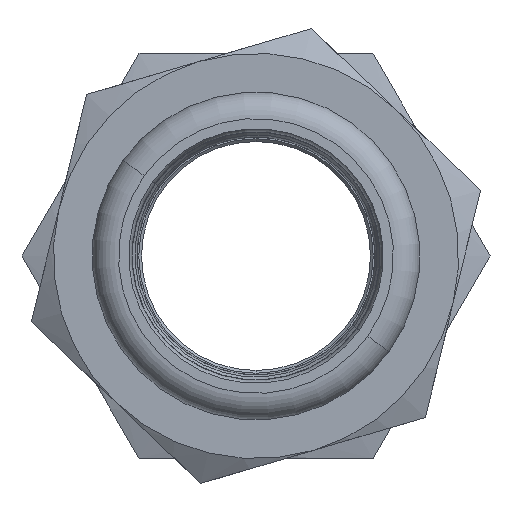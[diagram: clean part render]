
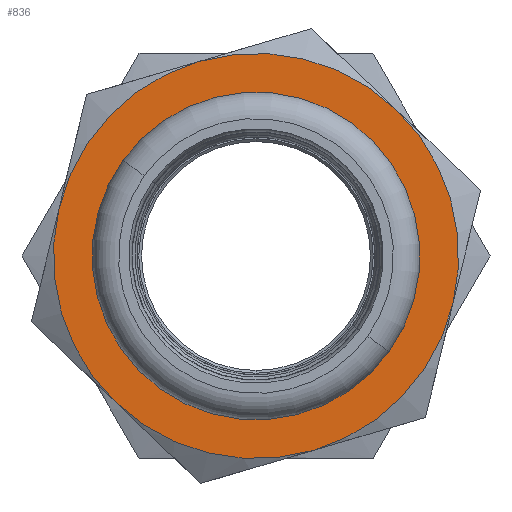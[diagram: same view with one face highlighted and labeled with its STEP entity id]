
A CAD part, left-side view. The second image highlights one B-rep face of the part: STEP entity #836.
In plain terms, the highlighted planar face has unit normal (-1, 0, 0) as drawn and (0, 1, 0) by its records, which use the part's own axes.
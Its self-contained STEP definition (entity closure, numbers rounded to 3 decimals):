
#92 = DIRECTION ( 'NONE',  ( 0., 1., 0. ) ) ;
#218 = CIRCLE ( 'NONE', #2767, 23. ) ;
#374 = DIRECTION ( 'NONE',  ( 0., 1., 0. ) ) ;
#379 = AXIS2_PLACEMENT_3D ( 'NONE', #1377, #769, #2599 ) ;
#420 = CARTESIAN_POINT ( 'NONE',  ( 0., 19., 16. ) ) ;
#431 = DIRECTION ( 'NONE',  ( 0., 1., 0. ) ) ;
#448 = CARTESIAN_POINT ( 'NONE',  ( 0., 19., -16. ) ) ;
#450 = DIRECTION ( 'NONE',  ( 0., 0., 1. ) ) ;
#580 = CARTESIAN_POINT ( 'NONE',  ( 0., 19., 0. ) ) ;
#663 = DIRECTION ( 'NONE',  ( 0., 0., 1. ) ) ;
#676 = CARTESIAN_POINT ( 'NONE',  ( 0., 19., 0. ) ) ;
#690 = CARTESIAN_POINT ( 'NONE',  ( 0., 19., 0. ) ) ;
#700 = CARTESIAN_POINT ( 'NONE',  ( 0., 19., 0. ) ) ;
#737 = ORIENTED_EDGE ( 'NONE', *, *, #1998, .F. ) ;
#769 = DIRECTION ( 'NONE',  ( 0., 1., 0. ) ) ;
#836 = ADVANCED_FACE ( 'NONE', ( #3844, #2454 ), #3001, .T. ) ;
#948 = AXIS2_PLACEMENT_3D ( 'NONE', #3268, #431, #2677 ) ;
#1018 = DIRECTION ( 'NONE',  ( 0., 0., 1. ) ) ;
#1045 = VERTEX_POINT ( 'NONE', #3382 ) ;
#1064 = VERTEX_POINT ( 'NONE', #2385 ) ;
#1093 = CARTESIAN_POINT ( 'NONE',  ( 0., 19., 0. ) ) ;
#1342 = CIRCLE ( 'NONE', #379, 23. ) ;
#1377 = CARTESIAN_POINT ( 'NONE',  ( 0., 19., 0. ) ) ;
#1415 = AXIS2_PLACEMENT_3D ( 'NONE', #1985, #92, #2310 ) ;
#1662 = CARTESIAN_POINT ( 'NONE',  ( 19.919, 19., -11.5 ) ) ;
#1680 = EDGE_LOOP ( 'NONE', ( #1870, #2825, #2758, #3028, #1950, #3735 ) ) ;
#1702 = CARTESIAN_POINT ( 'NONE',  ( 0., 19., 23. ) ) ;
#1776 = CARTESIAN_POINT ( 'NONE',  ( -19.919, 19., -11.5 ) ) ;
#1870 = ORIENTED_EDGE ( 'NONE', *, *, #2725, .T. ) ;
#1906 = DIRECTION ( 'NONE',  ( 0., 1., 0. ) ) ;
#1911 = CIRCLE ( 'NONE', #2939, 23. ) ;
#1936 = VERTEX_POINT ( 'NONE', #1702 ) ;
#1950 = ORIENTED_EDGE ( 'NONE', *, *, #3333, .T. ) ;
#1983 = EDGE_CURVE ( 'NONE', #2165, #1064, #1342, .T. ) ;
#1985 = CARTESIAN_POINT ( 'NONE',  ( 0., 19., 0. ) ) ;
#1998 = EDGE_CURVE ( 'NONE', #3351, #2342, #2940, .T. ) ;
#2073 = AXIS2_PLACEMENT_3D ( 'NONE', #700, #3250, #3220 ) ;
#2121 = EDGE_LOOP ( 'NONE', ( #737, #3450 ) ) ;
#2165 = VERTEX_POINT ( 'NONE', #1776 ) ;
#2196 = CIRCLE ( 'NONE', #1415, 23. ) ;
#2210 = CIRCLE ( 'NONE', #3234, 23. ) ;
#2234 = VERTEX_POINT ( 'NONE', #2701 ) ;
#2310 = DIRECTION ( 'NONE',  ( 0., 0., 1. ) ) ;
#2342 = VERTEX_POINT ( 'NONE', #448 ) ;
#2385 = CARTESIAN_POINT ( 'NONE',  ( -19.919, 19., 11.5 ) ) ;
#2454 = FACE_OUTER_BOUND ( 'NONE', #1680, .T. ) ;
#2491 = DIRECTION ( 'NONE',  ( 0., 0., 1. ) ) ;
#2492 = EDGE_CURVE ( 'NONE', #1045, #2702, #218, .T. ) ;
#2526 = EDGE_CURVE ( 'NONE', #2342, #3351, #3803, .T. ) ;
#2599 = DIRECTION ( 'NONE',  ( 0., 0., 1. ) ) ;
#2652 = DIRECTION ( 'NONE',  ( 0., 1., 0. ) ) ;
#2677 = DIRECTION ( 'NONE',  ( 0., 0., 1. ) ) ;
#2701 = CARTESIAN_POINT ( 'NONE',  ( 0., 19., -23. ) ) ;
#2702 = VERTEX_POINT ( 'NONE', #1662 ) ;
#2725 = EDGE_CURVE ( 'NONE', #1064, #1936, #2196, .T. ) ;
#2758 = ORIENTED_EDGE ( 'NONE', *, *, #2492, .T. ) ;
#2767 = AXIS2_PLACEMENT_3D ( 'NONE', #3825, #2862, #3176 ) ;
#2825 = ORIENTED_EDGE ( 'NONE', *, *, #3247, .T. ) ;
#2862 = DIRECTION ( 'NONE',  ( 0., 1., 0. ) ) ;
#2939 = AXIS2_PLACEMENT_3D ( 'NONE', #690, #374, #663 ) ;
#2940 = CIRCLE ( 'NONE', #2073, 16. ) ;
#3001 = PLANE ( 'NONE',  #4044 ) ;
#3028 = ORIENTED_EDGE ( 'NONE', *, *, #3186, .T. ) ;
#3176 = DIRECTION ( 'NONE',  ( 0., 0., 1. ) ) ;
#3186 = EDGE_CURVE ( 'NONE', #2702, #2234, #1911, .T. ) ;
#3220 = DIRECTION ( 'NONE',  ( 0., 0., 1. ) ) ;
#3234 = AXIS2_PLACEMENT_3D ( 'NONE', #676, #1906, #1018 ) ;
#3247 = EDGE_CURVE ( 'NONE', #1936, #1045, #2210, .T. ) ;
#3250 = DIRECTION ( 'NONE',  ( 0., 1., 0. ) ) ;
#3268 = CARTESIAN_POINT ( 'NONE',  ( 0., 19., 0. ) ) ;
#3333 = EDGE_CURVE ( 'NONE', #2234, #2165, #3721, .T. ) ;
#3351 = VERTEX_POINT ( 'NONE', #420 ) ;
#3382 = CARTESIAN_POINT ( 'NONE',  ( 19.919, 19., 11.5 ) ) ;
#3450 = ORIENTED_EDGE ( 'NONE', *, *, #2526, .F. ) ;
#3560 = AXIS2_PLACEMENT_3D ( 'NONE', #580, #3805, #2491 ) ;
#3721 = CIRCLE ( 'NONE', #948, 23. ) ;
#3735 = ORIENTED_EDGE ( 'NONE', *, *, #1983, .T. ) ;
#3803 = CIRCLE ( 'NONE', #3560, 16. ) ;
#3805 = DIRECTION ( 'NONE',  ( 0., 1., 0. ) ) ;
#3825 = CARTESIAN_POINT ( 'NONE',  ( 0., 19., 0. ) ) ;
#3844 = FACE_BOUND ( 'NONE', #2121, .T. ) ;
#4044 = AXIS2_PLACEMENT_3D ( 'NONE', #1093, #2652, #450 ) ;
